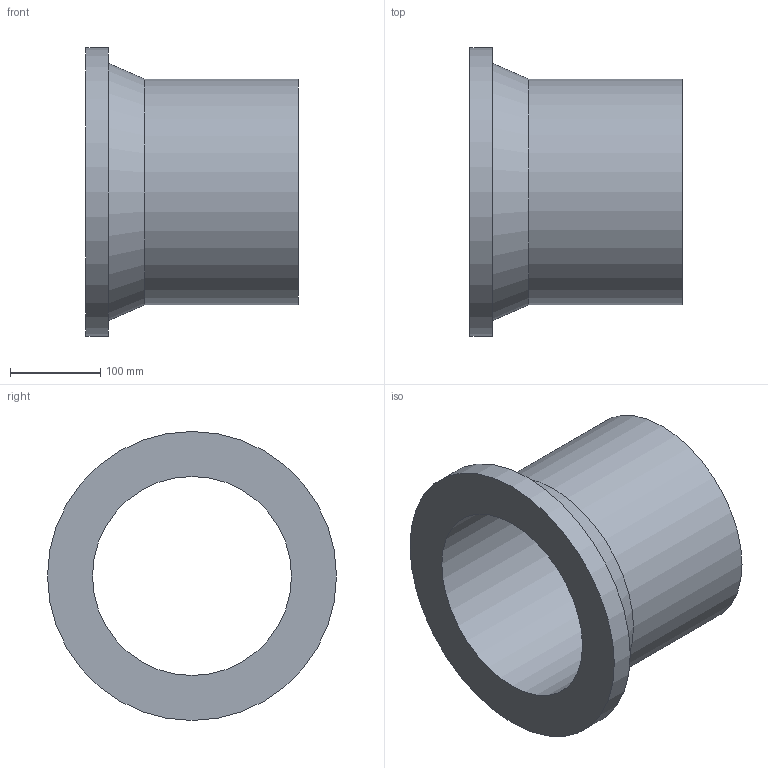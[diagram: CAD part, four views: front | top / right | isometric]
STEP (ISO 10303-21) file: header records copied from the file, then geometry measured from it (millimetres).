
FILE_DESCRIPTION(('Beschreibung'),'1');
FILE_NAME('V:/Ziel/25.80.01.063_SDR_17_PE100_250.STP', '2014-09-15T06:17:44',('Author'), ('Organization'), 'KCM Version 1.1.794.0', 'Kubotek KeyCreator', 'Authorization');
FILE_SCHEMA(('CONFIG_CONTROL_DESIGN'));
Length unit declared in the file: millimetre
Bounding box: 235 x 320 x 320 mm (x, y, z)
Volume: 3641055.4 mm3; surface area: 427897.1 mm2
Topology: 1 solids, 1 shells, 7 faces, 18 edges, 21 vertices
Faces by surface type: cylinder 3, plane 3, cone 1
Full cylindrical faces by diameter (mm): 220.4 x1, 250 x1, 320 x1
Entity records: 286 total; most frequent: DIRECTION 41, CARTESIAN_POINT 33, ORIENTED_EDGE 22, AXIS2_PLACEMENT_3D 15, EDGE_CURVE 11, VECTOR 11, LINE 11, EDGE_LOOP 10
